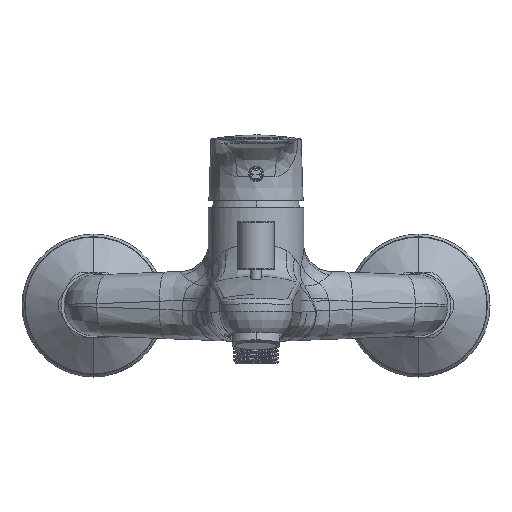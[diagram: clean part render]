
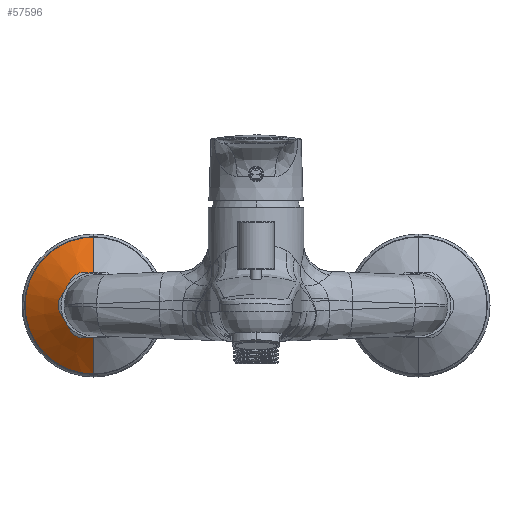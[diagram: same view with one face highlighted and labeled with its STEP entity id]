
A CAD part, top view. The second image highlights one B-rep face of the part: STEP entity #57596.
In plain terms, the highlighted conical face has half-angle 52.883 degrees and reference radius 23.356 mm.
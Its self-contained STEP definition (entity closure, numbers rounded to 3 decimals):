
#18624=CARTESIAN_POINT('',(-75.,0.,-16.804));
#18625=DIRECTION('',(0.,0.,-1.));
#18626=DIRECTION('',(0.,-1.,0.));
#18627=AXIS2_PLACEMENT_3D('',#18624,#18625,#18626);
#18629=CARTESIAN_POINT('',(-75.,0.,-29.6));
#18630=DIRECTION('',(0.,0.,-1.));
#18631=DIRECTION('',(0.,-1.,0.));
#18632=AXIS2_PLACEMENT_3D('',#18629,#18630,#18631);
#19303=DIRECTION('',(0.,0.797,-0.603));
#19304=VECTOR('',#19303,21.205);
#19305=CARTESIAN_POINT('',(-75.,14.902,-16.804));
#19306=LINE('',#19305,#19304);
#19312=DIRECTION('',(0.,-0.797,-0.603));
#19313=VECTOR('',#19312,21.205);
#19314=CARTESIAN_POINT('',(-75.,-14.902,-16.804));
#19315=LINE('',#19314,#19313);
#29817=CARTESIAN_POINT('',(-75.,-31.81,-29.6));
#29818=CARTESIAN_POINT('',(-75.,31.81,-29.6));
#29819=VERTEX_POINT('',#29817);
#29820=VERTEX_POINT('',#29818);
#29829=CARTESIAN_POINT('',(-75.,14.902,-16.804));
#29830=CARTESIAN_POINT('',(-75.,-14.902,-16.804));
#29831=VERTEX_POINT('',#29829);
#29832=VERTEX_POINT('',#29830);
#57582=CARTESIAN_POINT('',(-75.,0.,-23.202));
#57583=DIRECTION('',(0.,0.,-1.));
#57584=DIRECTION('',(0.,1.,0.));
#57585=AXIS2_PLACEMENT_3D('',#57582,#57583,#57584);
#57586=CONICAL_SURFACE('',#57585,23.356,52.883);
#57588=ORIENTED_EDGE('',*,*,#57587,.F.);
#57590=ORIENTED_EDGE('',*,*,#57589,.T.);
#57591=ORIENTED_EDGE('',*,*,#57564,.T.);
#57593=ORIENTED_EDGE('',*,*,#57592,.F.);
#57594=EDGE_LOOP('',(#57588,#57590,#57591,#57593));
#57595=FACE_OUTER_BOUND('',#57594,.F.);
#57596=ADVANCED_FACE('',(#57595),#57586,.T.);
#18628=CIRCLE('',#18627,14.902);
#18633=CIRCLE('',#18632,31.81);
#57564=EDGE_CURVE('',#29819,#29820,#18633,.T.);
#57587=EDGE_CURVE('',#29832,#29831,#18628,.T.);
#57589=EDGE_CURVE('',#29832,#29819,#19315,.T.);
#57592=EDGE_CURVE('',#29831,#29820,#19306,.T.);
